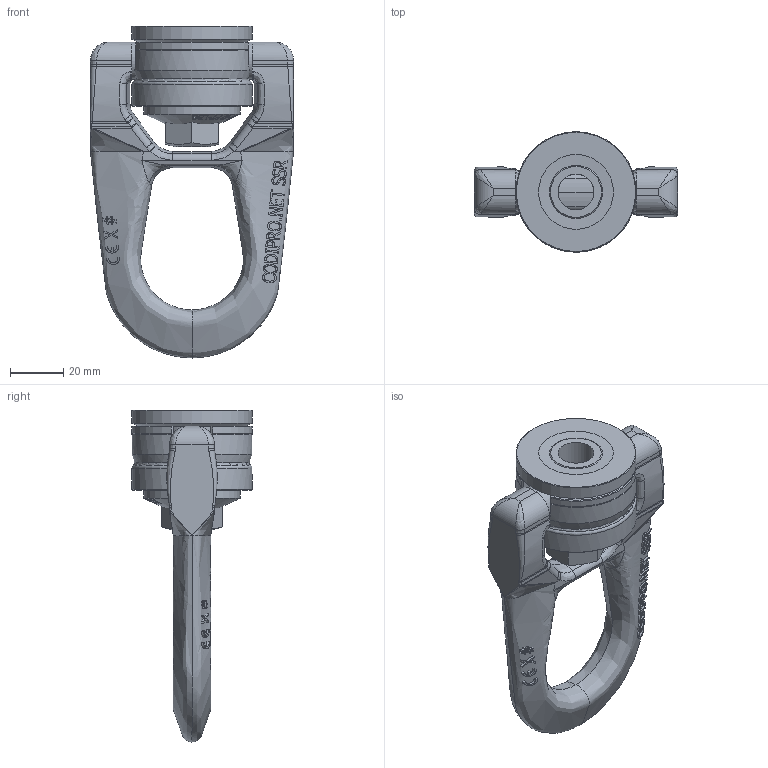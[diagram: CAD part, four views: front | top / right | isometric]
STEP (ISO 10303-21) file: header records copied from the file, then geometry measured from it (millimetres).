
FILE_DESCRIPTION(/* description */ (''),/* implementation_level */ '2;1');
FILE_NAME(/* name */ 'W:\CODIPRO\DOCUMENTS\Plans A NE PAS DIFFUSER !!!\Inventor\Standard Inventor\Produit Fini Inventor\SS_FE_DSR\Fichiers 3D\SS FE DSR U058.stp',/* time_stamp */ '2017-10-06T08:33:04+02:00',/* author */ ('rklenes'),/* organization */ (''),/* preprocessor_version */ 'ST-DEVELOPER v16.5',/* originating_system */ 'Autodesk Inventor 2017',/* authorisation */ '');
FILE_SCHEMA (('AUTOMOTIVE_DESIGN { 1 0 10303 214 3 1 1 }'));
Products named in the file (5): FE DSR U058; DRB_B2B; DRM_AF2B-1; FE_DRA_U058; SS_FE_DRE_D2M20A
Assembly tree (4 placements, depth 2):
  FE DSR U058
    DRB_B2B
    DRM_AF2B-1
    FE_DRA_U058
    SS_FE_DRE_D2M20A
Bounding box: 76 x 45 x 124.25 mm (x, y, z)
Volume: 101883.7 mm3; surface area: 36986.2 mm2
Topology: 4 solids, 4 shells, 924 faces, 2440 edges, 1569 vertices
Faces by surface type: bspline 401, plane 380, cylinder 81, cone 50, torus 11, sphere 1
Full cylindrical faces by diameter (mm): 13.386 x1, 14 x2, 19.85 x3, 20.05 x1, 22.6 x2, 23 x2, 32 x1, 36 x1, 45 x2
Entity records: 49452 total; most frequent: CARTESIAN_POINT 29516, ORIENTED_EDGE 4766, DIRECTION 2991, EDGE_CURVE 2383, VERTEX_POINT 1558, AXIS2_PLACEMENT_3D 1065, EDGE_LOOP 1019, FACE_OUTER_BOUND 922
